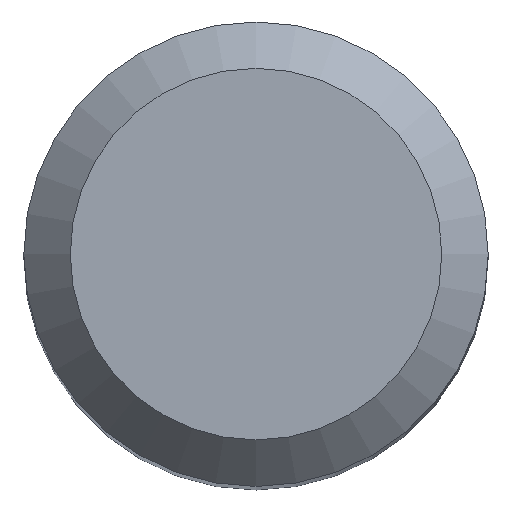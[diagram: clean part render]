
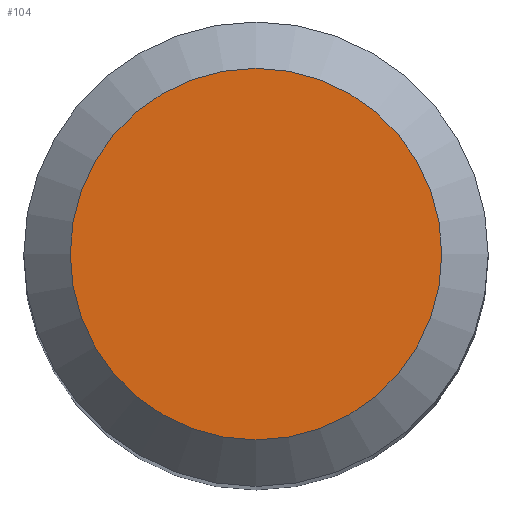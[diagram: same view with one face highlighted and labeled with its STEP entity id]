
A CAD part, top view. The second image highlights one B-rep face of the part: STEP entity #104.
In plain terms, the highlighted planar face has unit normal (0, 0, 1).
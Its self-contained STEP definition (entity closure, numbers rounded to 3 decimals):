
#88=CARTESIAN_POINT('',(4.8,0.0,90.0));
#89=DIRECTION('',(0.0,0.0,1.0));
#90=DIRECTION('',(1.0,0.0,0.0));
#91=AXIS2_PLACEMENT_3D('',#88,#89,#90);
#92=PLANE('',#91);
#93=CARTESIAN_POINT('',(-4.8,0.0,90.));
#94=VERTEX_POINT('',#93);
#95=CARTESIAN_POINT('',(0.0,0.0,90.));
#96=DIRECTION('',(0.0,0.0,-1.0));
#97=DIRECTION('',(-1.0,0.0,0.0));
#98=AXIS2_PLACEMENT_3D('',#95,#96,#97);
#99=CIRCLE('',#98,4.8);
#100=EDGE_CURVE('',#94,#94,#99,.T.);
#101=ORIENTED_EDGE('',*,*,#100,.F.);
#102=EDGE_LOOP('',(#101));
#103=FACE_OUTER_BOUND('',#102,.T.);
#104=ADVANCED_FACE('',(#103),#92,.T.);
